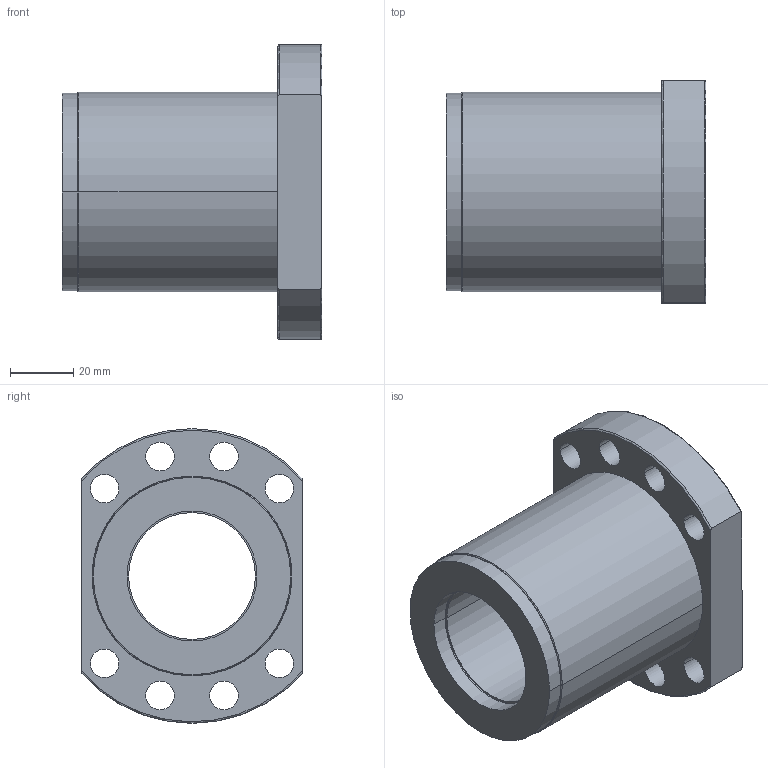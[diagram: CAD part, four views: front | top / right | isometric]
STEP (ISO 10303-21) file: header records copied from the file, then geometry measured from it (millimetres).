
FILE_DESCRIPTION (( 'STEP AP214' ), '1' );
FILE_NAME ('2.3008 Kuularuuvimutteri SFS4020-3,8.STEP', '2024-05-03T11:36:15', ( '' ), ( '' ), 'SwSTEP 2.0', 'SolidWorks 2024', '' );
FILE_SCHEMA (( 'AUTOMOTIVE_DESIGN' ));
Length unit declared in the file: millimetre
Products named in the file (1): 2.3008 Kuularuuvimutteri SFS4020-3,8
Bounding box: 82 x 70 x 93 mm (x, y, z)
Volume: 183601.6 mm3; surface area: 47915.7 mm2
Topology: 3 solids, 3 shells, 54 faces, 130 edges, 86 vertices
Faces by surface type: cylinder 36, plane 12, torus 6
Entity records: 2539 total; most frequent: CARTESIAN_POINT 1069, DIRECTION 304, ORIENTED_EDGE 260, AXIS2_PLACEMENT_3D 131, EDGE_CURVE 130, VERTEX_POINT 86, EDGE_LOOP 80, CIRCLE 76
